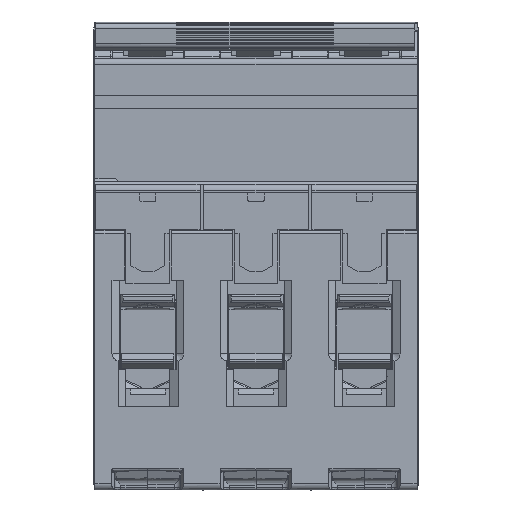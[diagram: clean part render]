
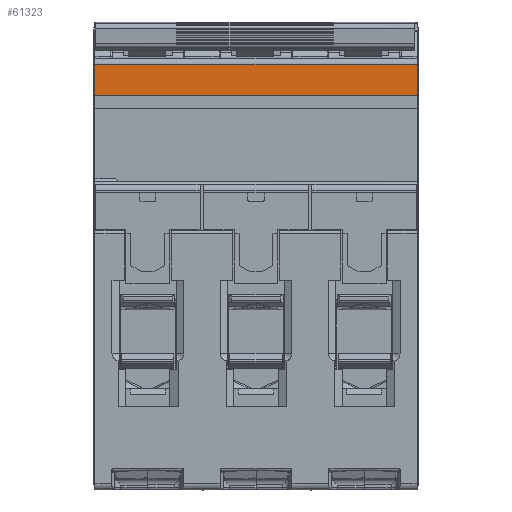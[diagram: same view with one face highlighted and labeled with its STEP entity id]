
A CAD part, front view. The second image highlights one B-rep face of the part: STEP entity #61323.
In plain terms, the highlighted planar face has unit normal (0, -1, 0).
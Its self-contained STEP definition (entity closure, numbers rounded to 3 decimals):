
#2341 = CARTESIAN_POINT ( 'NONE',  ( -16.833, -20.109, 12.549 ) ) ;
#3209 = EDGE_CURVE ( 'NONE', #52219, #93418, #8385, .T. ) ;
#3449 = VECTOR ( 'NONE', #24277, 1000. ) ;
#5988 = LINE ( 'NONE', #2341, #164746 ) ;
#8385 = LINE ( 'NONE', #87619, #3449 ) ;
#24277 = DIRECTION ( 'NONE',  ( 0., 0., -1. ) ) ;
#24414 = LINE ( 'NONE', #111555, #101528 ) ;
#31801 = VERTEX_POINT ( 'NONE', #139960 ) ;
#43891 = EDGE_CURVE ( 'NONE', #159594, #31801, #5988, .T. ) ;
#46191 = CARTESIAN_POINT ( 'NONE',  ( 35.567, -20.109, 26.649 ) ) ;
#52219 = VERTEX_POINT ( 'NONE', #180921 ) ;
#58231 = DIRECTION ( 'NONE',  ( 0., -1., 0. ) ) ;
#61323 = ADVANCED_FACE ( 'NONE', ( #70375 ), #164840, .T. ) ;
#70375 = FACE_OUTER_BOUND ( 'NONE', #118919, .T. ) ;
#78872 = LINE ( 'NONE', #81124, #155552 ) ;
#81124 = CARTESIAN_POINT ( 'NONE',  ( 0.567, -20.109, 31.649 ) ) ;
#81323 = EDGE_CURVE ( 'NONE', #52219, #159594, #78872, .T. ) ;
#87619 = CARTESIAN_POINT ( 'NONE',  ( 35.567, -20.109, -31.351 ) ) ;
#90212 = EDGE_CURVE ( 'NONE', #31801, #93418, #24414, .T. ) ;
#93418 = VERTEX_POINT ( 'NONE', #46191 ) ;
#94829 = DIRECTION ( 'NONE',  ( 0., 0., -1. ) ) ;
#101528 = VECTOR ( 'NONE', #126886, 1000. ) ;
#111555 = CARTESIAN_POINT ( 'NONE',  ( 0.567, -20.109, 26.649 ) ) ;
#118919 = EDGE_LOOP ( 'NONE', ( #176676, #166118, #185155, #140318 ) ) ;
#126886 = DIRECTION ( 'NONE',  ( 1., 0., 0. ) ) ;
#127168 = DIRECTION ( 'NONE',  ( -1., 0., 0. ) ) ;
#139960 = CARTESIAN_POINT ( 'NONE',  ( -16.833, -20.109, 26.649 ) ) ;
#140318 = ORIENTED_EDGE ( 'NONE', *, *, #43891, .T. ) ;
#144019 = AXIS2_PLACEMENT_3D ( 'NONE', #150094, #58231, #165503 ) ;
#150094 = CARTESIAN_POINT ( 'NONE',  ( 0.567, -20.109, 12.549 ) ) ;
#155552 = VECTOR ( 'NONE', #127168, 1000. ) ;
#159594 = VERTEX_POINT ( 'NONE', #198944 ) ;
#164746 = VECTOR ( 'NONE', #94829, 1000. ) ;
#164840 = PLANE ( 'NONE',  #144019 ) ;
#165503 = DIRECTION ( 'NONE',  ( 1., 0., 0. ) ) ;
#166118 = ORIENTED_EDGE ( 'NONE', *, *, #3209, .F. ) ;
#176676 = ORIENTED_EDGE ( 'NONE', *, *, #90212, .T. ) ;
#180921 = CARTESIAN_POINT ( 'NONE',  ( 35.567, -20.109, 31.649 ) ) ;
#185155 = ORIENTED_EDGE ( 'NONE', *, *, #81323, .T. ) ;
#198944 = CARTESIAN_POINT ( 'NONE',  ( -16.833, -20.109, 31.649 ) ) ;
